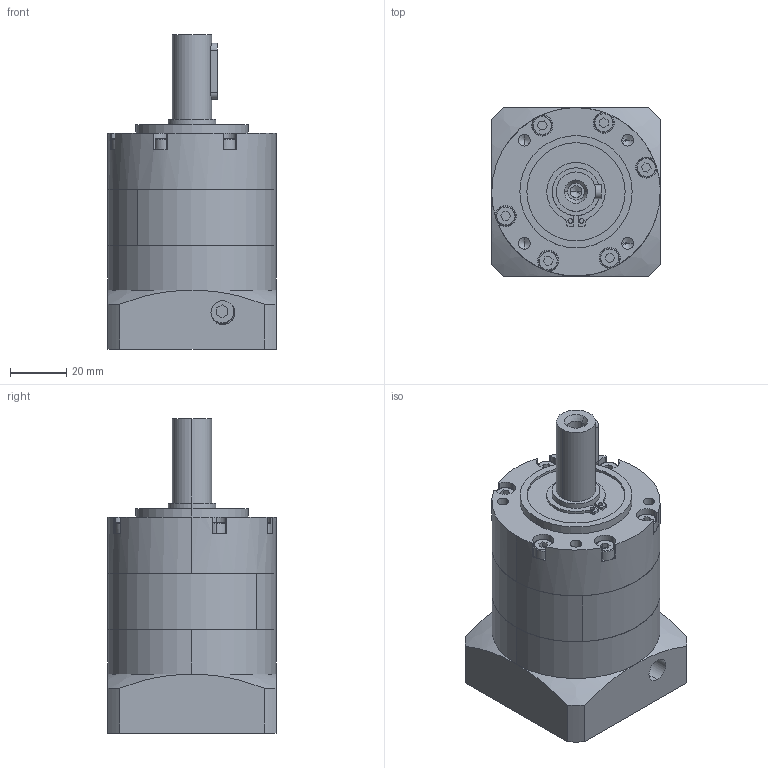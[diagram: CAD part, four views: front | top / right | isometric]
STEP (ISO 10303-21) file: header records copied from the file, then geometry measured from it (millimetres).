
FILE_DESCRIPTION (( 'STEP AP203' ), '1' );
FILE_NAME ('PLE060-L1-11-50-70.STEP', '2026-09-16T02:13:53', ( 'Windows User' ), ( 'P R C' ), 'SwSTEP 2.0', 'SolidWorks 2016', '' );
FILE_SCHEMA (( 'CONFIG_CONTROL_DESIGN' ));
Length unit declared in the file: millimetre
Products named in the file (8): B-PLE60 狟屳唳11_D6-60 D7-14 梓袧; B-PLE60-連接板标准-尾座款_1; 邧埴瑩 5x5x20; GB／T276-94深沟球轴承61905-2RZ; 囀鞠褒蹟佪 M5℅16; PLE060-L1-11-50-70; B-PLE60 κｳﾝﾈｦ_ﾒｻｼｶﾄﾚｳﾝﾈｦ; B-PLE60 奻屳唳
Assembly tree (7 placements, depth 2):
  PLE060-L1-11-50-70
    囀鞠褒蹟佪 M5℅16
    B-PLE60 κｳﾝﾈｦ_ﾒｻｼｶﾄﾚｳﾝﾈｦ
    B-PLE60 奻屳唳
    B-PLE60 狟屳唳11_D6-60 D7-14 梓袧
    B-PLE60-連接板标准-尾座款_1
    邧埴瑩 5x5x20
    GB／T276-94深沟球轴承61905-2RZ
Bounding box: 60 x 60 x 112 mm (x, y, z)
Volume: 200144.4 mm3; surface area: 61118.8 mm2
Topology: 7 solids, 7 shells, 1023 faces, 2786 edges, 1829 vertices
Faces by surface type: plane 547, bspline 289, cylinder 161, cone 26
Entity records: 43265 total; most frequent: CARTESIAN_POINT 18442, ORIENTED_EDGE 5512, DIRECTION 4125, EDGE_CURVE 2756, VERTEX_POINT 1823, LINE 1517, VECTOR 1517, AXIS2_PLACEMENT_3D 1304
